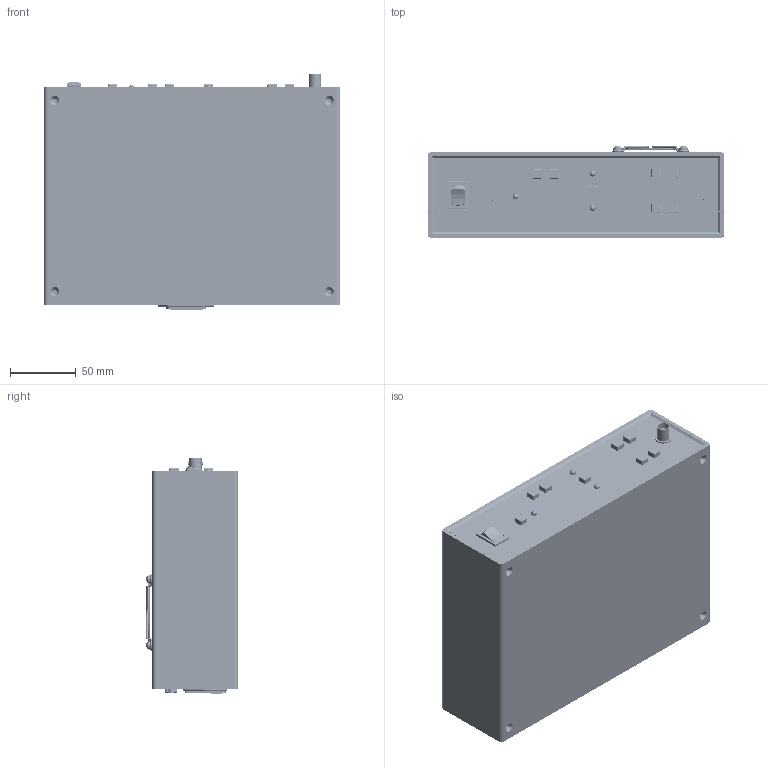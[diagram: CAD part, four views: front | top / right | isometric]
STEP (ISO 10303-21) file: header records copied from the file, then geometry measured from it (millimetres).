
FILE_DESCRIPTION (( 'STEP AP214' ), '1' );
FILE_NAME ('401.00.00.000 QBU-BT_v.02.STEP', '2025-04-14T18:49:32', ( '' ), ( '' ), 'SwSTEP 2.0', 'SolidWorks 2019', '' );
FILE_SCHEMA (( 'AUTOMOTIVE_DESIGN' ));
Length unit declared in the file: millimetre
Products named in the file (34): 扻斀錼膷 SCR-10_CA-0230; Blind Standoff TR-BSO-M3-10 ZI (2018); 栖闉罻5; Washer M3 DIN125; Clinch nut TR-S-M3-2-ZI; Screw M3x8 DIN912; 401.00.00.002 QBU_QBD_SDC-BT FRONT_尚 罧ｮｫ遐ｭｨ畯M-FLAT-PATTERN; 栖闉罻4; 栖闉罻6; Tapping screw DIN 7981 ST3,5x6,5-C-H-N; BNC Connector; AC-3FL (AS-230UL); 401.00.00.003 QBU-BT BACK; Ðåøåòêà 50õ50; QBU assembly; Washer DIN 127_M3; Øåñòèãðàííàÿ ñòîéêà SCR-10_M3x5; CALI34 revC; Washer DIN 125_M3; 401.00.00.004 BOX G716; Screw M3x12 ISO7380; Screw M3x8 DIN7991; 401.00.00.000 QBU-BT_v.02; DB-9M Connector; Blind Standoff TR-BSO-M3-14 ZI (2018); GRS-4013A; RPS-75-24 Mean Well; Nut DIN 934_M3; Fan 60x60x15; PSM1-K-1-R 扻錝僝鍧; 401.00.00.001 BASE; 栖闉罻3; Washer M3 DIN127
Assembly tree (118 placements, depth 4):
  401.00.00.000 QBU-BT_v.02
    栖闉罻6
      401.00.00.004 BOX G716
      Fan 60x60x15
      Ðåøåòêà 50õ50
      Washer M3 DIN125  x4
      Washer M3 DIN127  x4
      Blind Standoff TR-BSO-M3-14 ZI (2018)  x4
      Screw M3x12 ISO7380  x4
    栖闉罻3
      401.00.00.001 BASE
      Blind Standoff TR-BSO-M3-14 ZI (2018)  x4
      Blind Standoff TR-BSO-M3-10 ZI (2018)  x4
      Tapping screw DIN 7981 ST3,5x6,5-C-H-N  x7
    栖闉罻4
      401.00.00.002 QBU_QBD_SDC-BT FRONT_尚 罧ｮｫ遐ｭｨ畯M-FLAT-PATTERN
      GRS-4013A
      BNC Connector
      CALI34 revC
      Blind Standoff TR-BSO-M3-14 ZI (2018)  x6
      Washer M3 DIN125  x6
      Washer M3 DIN127  x6
      Screw M3x8 DIN912  x6
      PSM1-K-1-R 扻錝僝鍧  x8
    栖闉罻5
      401.00.00.003 QBU-BT BACK
      AC-3FL (AS-230UL)
      DB-9M Connector
      Clinch nut TR-S-M3-2-ZI  x2
      Screw M3x8 DIN7991  x2
      扻斀錼膷 SCR-10_CA-0230
        Øåñòèãðàííàÿ ñòîéêà SCR-10_M3x5
        Washer DIN 125_M3
        Washer DIN 127_M3
        Nut DIN 934_M3
      扻斀錼膷 SCR-10_CA-0230
        Øåñòèãðàííàÿ ñòîéêà SCR-10_M3x5
        Washer DIN 125_M3
        Washer DIN 127_M3
        Nut DIN 934_M3
    QBU assembly
    RPS-75-24 Mean Well
    Washer M3 DIN125  x8
    Washer M3 DIN127  x8
    Screw M3x8 DIN912  x8
Bounding box: 225 x 69.7 x 178.73 mm (x, y, z)
Volume: 531850.6 mm3; surface area: 551610.6 mm2
Topology: 129 solids, 4301 shells, 21939 faces, 97799 edges, 79043 vertices
Faces by surface type: plane 12833, cylinder 4466, bspline 3187, torus 701, sphere 389, cone 363
Entity records: 1208007 total; most frequent: CARTESIAN_POINT 341983, ORIENTED_EDGE 124269, DIRECTION 108588, EDGE_CURVE 93304, VERTEX_POINT 76529, VECTOR 53408, LINE 53408, B_SPLINE_CURVE_WITH_KNOTS 28552
